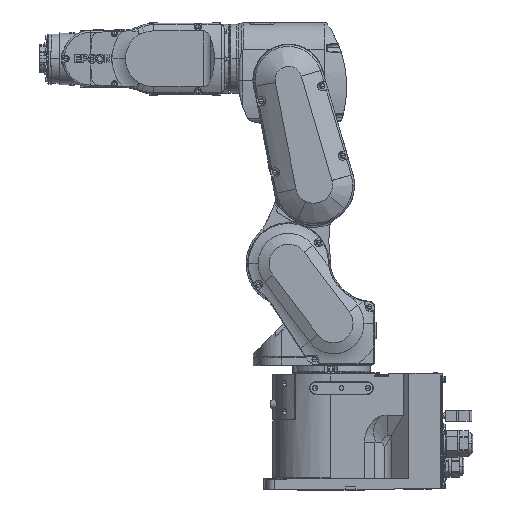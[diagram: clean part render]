
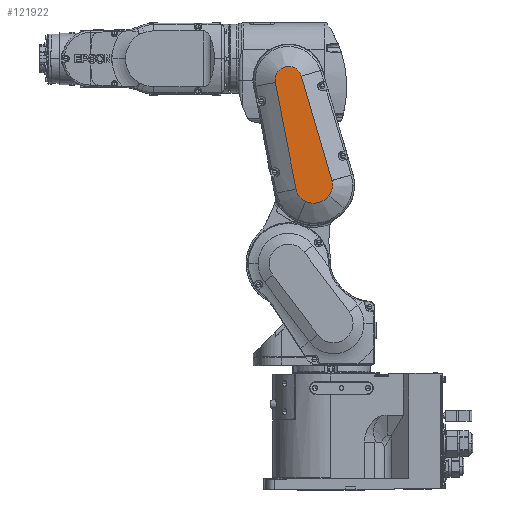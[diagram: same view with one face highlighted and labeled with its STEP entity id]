
A CAD part, top view. The second image highlights one B-rep face of the part: STEP entity #121922.
In plain terms, the highlighted planar face has unit normal (0, 0, 1).
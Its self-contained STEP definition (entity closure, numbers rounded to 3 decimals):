
#1312 = CARTESIAN_POINT ( 'NONE',  ( 24.508, 87.926, 110. ) ) ;
#2525 = ORIENTED_EDGE ( 'NONE', *, *, #104046, .T. ) ;
#7030 = EDGE_LOOP ( 'NONE', ( #2525, #151632, #14372, #27550, #23259, #144028, #137263, #17320, #133024 ) ) ;
#8782 = CARTESIAN_POINT ( 'NONE',  ( 47.041, 166.832, 110. ) ) ;
#12500 = EDGE_CURVE ( 'NONE', #86388, #134497, #111042, .T. ) ;
#12581 = EDGE_CURVE ( 'NONE', #154050, #134497, #16011, .T. ) ;
#14372 = ORIENTED_EDGE ( 'NONE', *, *, #12500, .F. ) ;
#15017 = CIRCLE ( 'NONE', #135952, 23.991 ) ;
#15214 = DIRECTION ( 'NONE',  ( 0.982, 0.191, 0. ) ) ;
#16011 = LINE ( 'NONE', #90150, #46627 ) ;
#16683 = DIRECTION ( 'NONE',  ( 0., 0., 1. ) ) ;
#17320 = ORIENTED_EDGE ( 'NONE', *, *, #132301, .T. ) ;
#18592 = EDGE_CURVE ( 'NONE', #146108, #152031, #94325, .T. ) ;
#20866 = CARTESIAN_POINT ( 'NONE',  ( 61.449, 117.576, 110. ) ) ;
#22360 = CARTESIAN_POINT ( 'NONE',  ( 38.414, 110.842, 110. ) ) ;
#23248 = CIRCLE ( 'NONE', #121088, 18.991 ) ;
#23259 = ORIENTED_EDGE ( 'NONE', *, *, #18592, .T. ) ;
#23791 = DIRECTION ( 'NONE',  ( 0.96, 0.281, 0. ) ) ;
#24937 = CARTESIAN_POINT ( 'NONE',  ( -18.642, 256.376, 110. ) ) ;
#27550 = ORIENTED_EDGE ( 'NONE', *, *, #31670, .T. ) ;
#30236 = CARTESIAN_POINT ( 'NONE',  ( 10.716, 105.265, 110. ) ) ;
#31670 = EDGE_CURVE ( 'NONE', #86388, #146108, #15017, .T. ) ;
#34042 = CARTESIAN_POINT ( 'NONE',  ( -18.653, 256.374, 110. ) ) ;
#39045 = DIRECTION ( 'NONE',  ( 0.778, -0.628, 0. ) ) ;
#42874 = VERTEX_POINT ( 'NONE', #58859 ) ;
#45532 = LINE ( 'NONE', #71272, #72936 ) ;
#46627 = VECTOR ( 'NONE', #98986, 1000. ) ;
#48881 = VERTEX_POINT ( 'NONE', #99952 ) ;
#50442 = DIRECTION ( 'NONE',  ( 0., -1., 0. ) ) ;
#53747 = DIRECTION ( 'NONE',  ( 0.96, 0.281, 0. ) ) ;
#58173 = DIRECTION ( 'NONE',  ( -0.407, -0.914, 0. ) ) ;
#58859 = CARTESIAN_POINT ( 'NONE',  ( 61.449, 117.576, 110. ) ) ;
#65551 = CARTESIAN_POINT ( 'NONE',  ( 10.719, 105.265, 110. ) ) ;
#68896 = DIRECTION ( 'NONE',  ( -0.982, -0.191, 0. ) ) ;
#71272 = CARTESIAN_POINT ( 'NONE',  ( -18.642, 256.376, 110. ) ) ;
#71327 = CARTESIAN_POINT ( 'NONE',  ( 61.441, 117.574, 110. ) ) ;
#72936 = VECTOR ( 'NONE', #68896, 1000. ) ;
#74432 = CARTESIAN_POINT ( 'NONE',  ( 18.224, 265.344, 110. ) ) ;
#75385 = FACE_OUTER_BOUND ( 'NONE', #7030, .T. ) ;
#82368 = CARTESIAN_POINT ( 'NONE',  ( 35.69, 113.04, 110. ) ) ;
#82501 = AXIS2_PLACEMENT_3D ( 'NONE', #22360, #131923, #39045 ) ;
#82933 = CARTESIAN_POINT ( 'NONE',  ( 18.224, 265.344, 110. ) ) ;
#83159 = DIRECTION ( 'NONE',  ( 0., 0., 1. ) ) ;
#84894 = B_SPLINE_CURVE_WITH_KNOTS ( 'NONE', 3,
 ( #20866, #8782, #122317, #82933 ),
 .UNSPECIFIED., .F., .F.,
 ( 4, 4 ),
 ( 0., 1. ),
 .UNSPECIFIED. ) ;
#86388 = VERTEX_POINT ( 'NONE', #30236 ) ;
#87742 = CARTESIAN_POINT ( 'NONE',  ( 10.716, 105.265, 110. ) ) ;
#90043 = DIRECTION ( 'NONE',  ( -0.982, -0.191, 0. ) ) ;
#90150 = CARTESIAN_POINT ( 'NONE',  ( -18.653, 256.374, 110. ) ) ;
#94325 = CIRCLE ( 'NONE', #101965, 27.491 ) ;
#97061 = LINE ( 'NONE', #71327, #153375 ) ;
#98986 = DIRECTION ( 'NONE',  ( 0.191, -0.982, 0. ) ) ;
#99369 = AXIS2_PLACEMENT_3D ( 'NONE', #1312, #133428, #50442 ) ;
#99952 = CARTESIAN_POINT ( 'NONE',  ( 61.441, 117.574, 110. ) ) ;
#100331 = PLANE ( 'NONE',  #99369 ) ;
#101965 = AXIS2_PLACEMENT_3D ( 'NONE', #82368, #83159, #58173 ) ;
#104046 = EDGE_CURVE ( 'NONE', #127949, #154050, #45532, .T. ) ;
#111042 = LINE ( 'NONE', #87742, #141813 ) ;
#121088 = AXIS2_PLACEMENT_3D ( 'NONE', #127032, #16683, #53747 ) ;
#121922 = ADVANCED_FACE ( 'NONE', ( #75385 ), #100331, .F. ) ;
#122317 = CARTESIAN_POINT ( 'NONE',  ( 32.632, 216.088, 110. ) ) ;
#127032 = CARTESIAN_POINT ( 'NONE',  ( 0., 260., 110. ) ) ;
#127099 = CARTESIAN_POINT ( 'NONE',  ( 24.508, 87.926, 110. ) ) ;
#127949 = VERTEX_POINT ( 'NONE', #24937 ) ;
#128289 = EDGE_CURVE ( 'NONE', #152031, #48881, #146862, .T. ) ;
#131923 = DIRECTION ( 'NONE',  ( 0., 0., 1. ) ) ;
#132301 = EDGE_CURVE ( 'NONE', #42874, #154940, #84894, .T. ) ;
#133024 = ORIENTED_EDGE ( 'NONE', *, *, #141826, .T. ) ;
#133428 = DIRECTION ( 'NONE',  ( 0., 0., -1. ) ) ;
#134497 = VERTEX_POINT ( 'NONE', #65551 ) ;
#135952 = AXIS2_PLACEMENT_3D ( 'NONE', #150473, #152818, #90043 ) ;
#137263 = ORIENTED_EDGE ( 'NONE', *, *, #156696, .T. ) ;
#141813 = VECTOR ( 'NONE', #15214, 1000. ) ;
#141826 = EDGE_CURVE ( 'NONE', #154940, #127949, #23248, .T. ) ;
#144028 = ORIENTED_EDGE ( 'NONE', *, *, #128289, .T. ) ;
#146108 = VERTEX_POINT ( 'NONE', #127099 ) ;
#146862 = CIRCLE ( 'NONE', #82501, 23.991 ) ;
#150421 = CARTESIAN_POINT ( 'NONE',  ( 57.085, 95.777, 110. ) ) ;
#150473 = CARTESIAN_POINT ( 'NONE',  ( 34.266, 109.843, 110. ) ) ;
#151632 = ORIENTED_EDGE ( 'NONE', *, *, #12581, .T. ) ;
#152031 = VERTEX_POINT ( 'NONE', #150421 ) ;
#152818 = DIRECTION ( 'NONE',  ( 0., 0., 1. ) ) ;
#153375 = VECTOR ( 'NONE', #23791, 1000. ) ;
#154050 = VERTEX_POINT ( 'NONE', #34042 ) ;
#154940 = VERTEX_POINT ( 'NONE', #74432 ) ;
#156696 = EDGE_CURVE ( 'NONE', #48881, #42874, #97061, .T. ) ;
